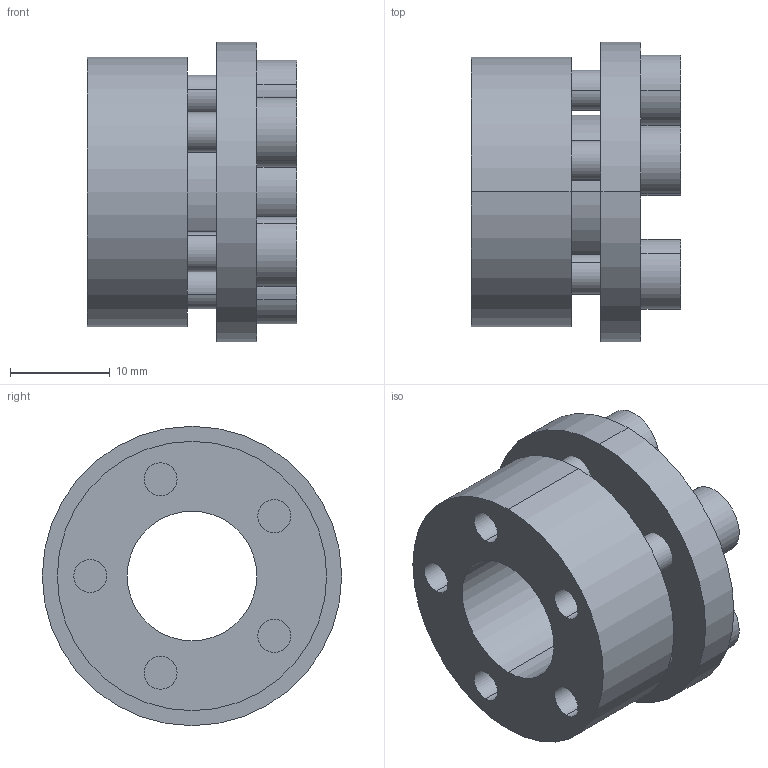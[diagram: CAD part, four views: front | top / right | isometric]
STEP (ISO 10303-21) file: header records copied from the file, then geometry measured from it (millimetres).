
FILE_DESCRIPTION (( 'STEP AP203' ), '1' );
FILE_NAME ('SES-13.step', '2009-09-29T16:36:52', ( 'USER' ), ( 'HOME' ), 'SwSTEP 2.0', 'SolidWorks 2007', '' );
FILE_SCHEMA (( 'CONFIG_CONTROL_DESIGN' ));
Length unit declared in the file: millimetre
Products named in the file (1): SES-13
Bounding box: 21 x 30 x 30 mm (x, y, z)
Volume: 7828 mm3; surface area: 6348.4 mm2
Topology: 6 solids, 6 shells, 102 faces, 234 edges, 156 vertices
Faces by surface type: plane 54, cylinder 48
Entity records: 3025 total; most frequent: DIRECTION 536, CARTESIAN_POINT 493, ORIENTED_EDGE 468, EDGE_CURVE 234, AXIS2_PLACEMENT_3D 199, VERTEX_POINT 156, VECTOR 138, LINE 138
